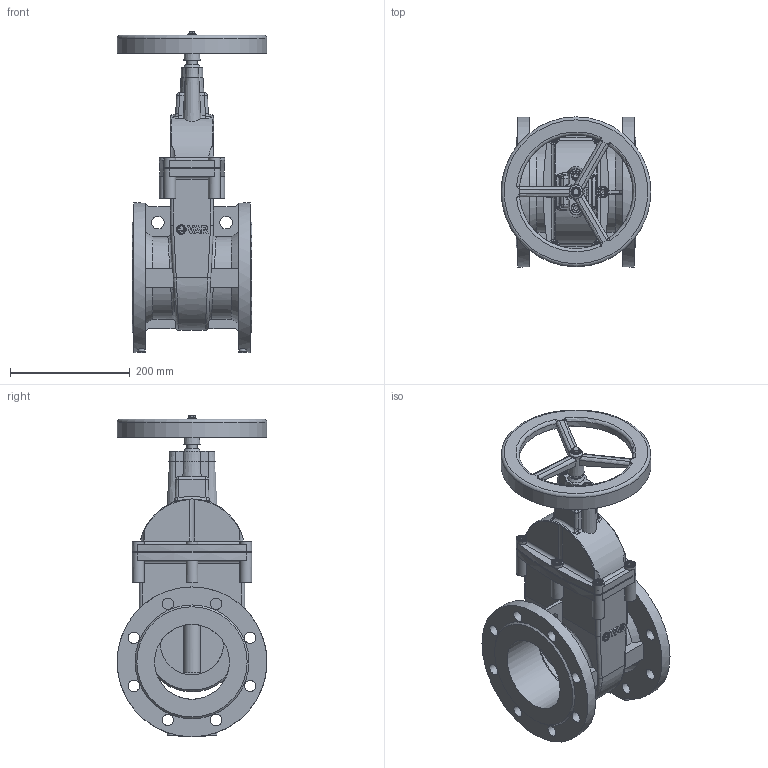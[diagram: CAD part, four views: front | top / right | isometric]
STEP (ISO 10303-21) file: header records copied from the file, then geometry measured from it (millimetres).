
FILE_DESCRIPTION(('STEP AP242'), '1');
FILE_NAME('青溻桄赅', '', ('UNSPECIFIED'), ('UNSPECIFIED'), 'C3D Converter', 'C3D Toolkit', '');
FILE_SCHEMA(('AP242_MANAGED_MODEL_BASED_3D_ENGINEERING_MIM_LF { 1 0 10303 442 1 1 4 }'));
Length unit declared in the file: millimetre
Assembly tree (17 placements, depth 2):
  (unnamed)
    (unnamed)
    (unnamed)
    (unnamed)
    (unnamed)
    (unnamed)  x2
    (unnamed)
    (unnamed)
    (unnamed)  x8
    (unnamed)
Bounding box: 250 x 250 x 536.6 mm (x, y, z)
Volume: 4249716 mm3; surface area: 962198.7 mm2
Topology: 20 solids, 20 shells, 945 faces, 2353 edges, 1497 vertices
Faces by surface type: plane 475, cylinder 195, extrusion 115, bspline 70, cone 69, torus 21
Full cylindrical faces by diameter (mm): 6 x3, 8 x8, 10 x30, 15.757 x1, 16 x16, 17 x7, 19 x16, 21.035 x2, 29.667 x4, 106 x2, 125 x4, 155.4 x4, 163 x1, 190 x1, 200 x1, 240 x1, 250 x3
Entity records: 41407 total; most frequent: CARTESIAN_POINT 20997, ORIENTED_EDGE 3740, DIRECTION 2972, EDGE_CURVE 1870, VERTEX_POINT 1275, EDGE_LOOP 1029, VECTOR 1012, AXIS2_PLACEMENT_3D 980
